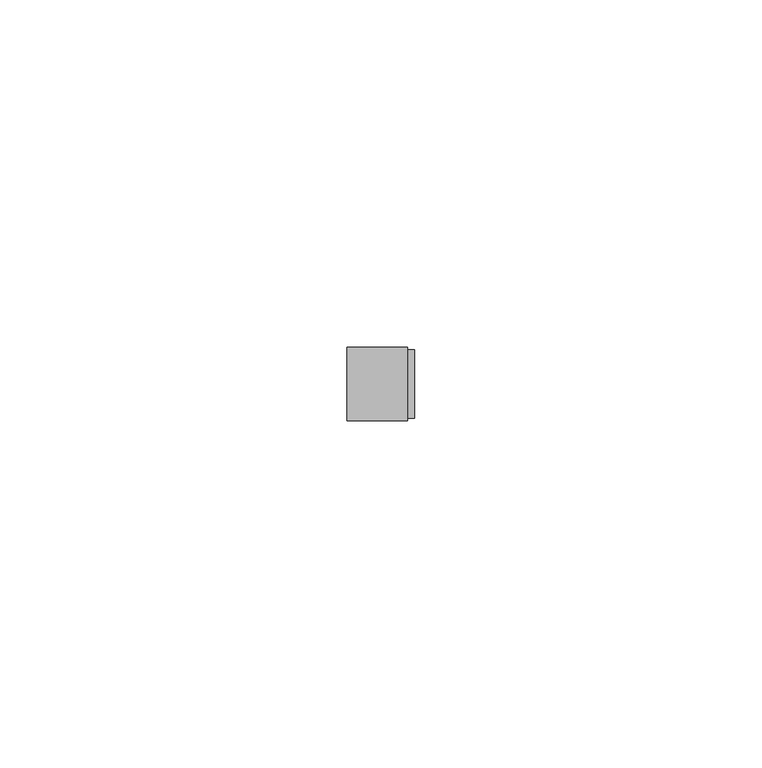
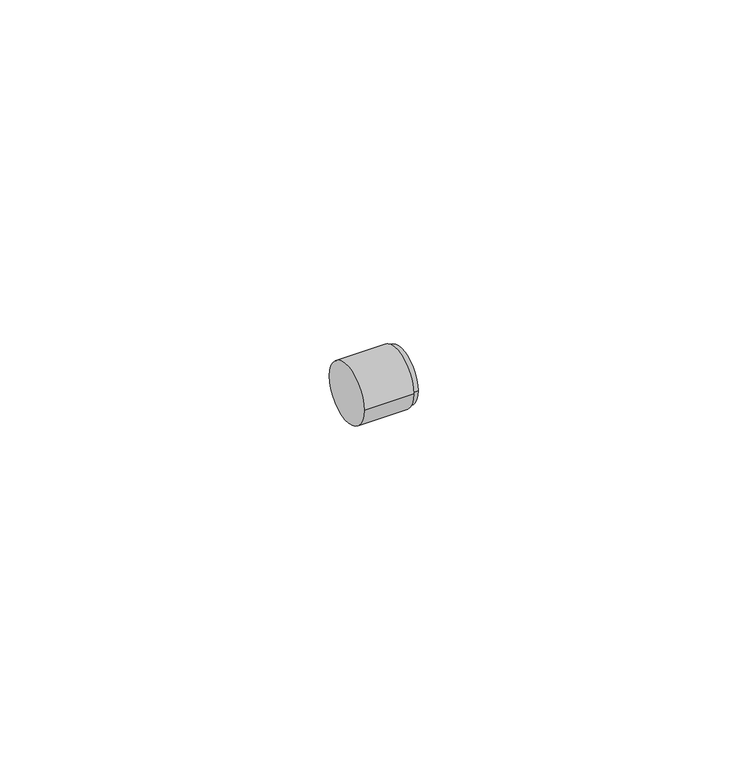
"""IFC4 building model written with IfcOpenShell, lengths in millimetres: pipe fitting geometry, Bucha de redução reta - Soldada - CU : Padrão."""

from ifc_helpers import new_model, si_unit, frame, origin, place, context, project, spatial, circle_curve, source, transform, mapped, element, save
from ifc_brep_helpers import plane_surface, cylinder_surface, advanced_brep


def pipe_fitting_b0e77d1d(model_context):
    return source(origin(), model_context, "Body", "AdvancedBrep", [
        advanced_brep(
        [(0.0, -5.2603, 0.0), (0.0, 5.2603, 0.0), (8.6791, -5.2603, 0.0), (8.6791, 5.2603, 0.0), (8.6791, -4.9, 0.0), (8.6791, 4.9, 0.0), (9.6791, -4.9, 0.0), (9.6791, 4.9, 0.0)],
        [
            (0, 1, circle_curve(frame((0.0, 0.0, 0.0), z_axis=(-1.0, 0.0, 0.0), x_axis=(0.0, 1.0, 0.0)), 5.2603)),
            (1, 0, circle_curve(frame((0.0, 0.0, 0.0), z_axis=(-1.0, 0.0, 0.0), x_axis=(0.0, 1.0, 0.0)), 5.2603)),
            (2, 3, circle_curve(frame((8.6791, 0.0, 0.0), z_axis=(1.0, 0.0, 0.0), x_axis=(0.0, 1.0, 0.0)), 5.2603)),
            (3, 2, circle_curve(frame((8.6791, 0.0, 0.0), z_axis=(1.0, 0.0, 0.0), x_axis=(0.0, 1.0, 0.0)), 5.2603)),
            (4, 5, circle_curve(frame((8.6791, 0.0, 0.0), z_axis=(-1.0, 0.0, 0.0), x_axis=(0.0, 1.0, 0.0)), 4.9)),
            (5, 4, circle_curve(frame((8.6791, 0.0, 0.0), z_axis=(-1.0, 0.0, 0.0), x_axis=(0.0, 1.0, 0.0)), 4.9)),
            (0, 2),
            (3, 1),
            (6, 7, circle_curve(frame((9.6791, 0.0, 0.0), z_axis=(1.0, 0.0, 0.0), x_axis=(0.0, 1.0, 0.0)), 4.9)),
            (7, 6, circle_curve(frame((9.6791, 0.0, 0.0), z_axis=(1.0, 0.0, 0.0), x_axis=(0.0, 1.0, 0.0)), 4.9)),
            (7, 5),
            (4, 6),
        ],
        [
            plane_surface(frame((0.0, 0.0, 0.0), z_axis=(-1.0, 0.0, 0.0), x_axis=(0.0, 0.0, 1.0))),
            plane_surface(frame((8.6791, 0.0, 0.0), z_axis=(1.0, 0.0, 0.0), x_axis=(0.0, 0.0, 1.0))),
            cylinder_surface(frame((0.0, 0.0, 0.0), z_axis=(-1.0, 0.0, 0.0), x_axis=(0.0, 1.0, 0.0)), 5.2603),
            plane_surface(frame((9.6791, 0.0, 0.0), z_axis=(1.0, 0.0, 0.0), x_axis=(0.0, 0.0, 1.0))),
            cylinder_surface(frame((8.6791, 0.0, 0.0), z_axis=(-1.0, 0.0, 0.0), x_axis=(0.0, 1.0, 0.0)), 4.9),
        ],
        [
            (0, [[1, 2]]),
            (1, [[3, 4], [5, 6]]),
            (2, [[-1, 7, -4, 8]]),
            (2, [[-2, -8, -3, -7]]),
            (3, [[9, 10]]),
            (4, [[-10, 11, -5, 12]]),
            (4, [[-9, -12, -6, -11]]),
        ],
    ),
    ])


if __name__ == "__main__":
    model = new_model("IFC4")
    model_context = context("Model", 3, world=origin())
    ifc_project = project(units=[si_unit("LENGTHUNIT", "METRE", prefix="MILLI")], contexts=[model_context])
    site = spatial("IfcSite", under=ifc_project)
    building = spatial("IfcBuilding", under=site)
    placement = place(None, origin())
    pipe_fitting_shape = pipe_fitting_b0e77d1d(model_context)
    element("IfcPipeFitting", 1, ObjectType="Bucha de redução reta - Soldada - CU : Padrão", at=placement, inside=building, context=model_context, shape_type="MappedRepresentation", body=[
        mapped(pipe_fitting_shape, transform((0.0, 0.0, 0.0), x_axis=(1.0, 0.0, 0.0), y_axis=(0.0, 1.0, 0.0), z_axis=(0.0, 0.0, 1.0))),
    ])
    save(model, "model.ifc")
